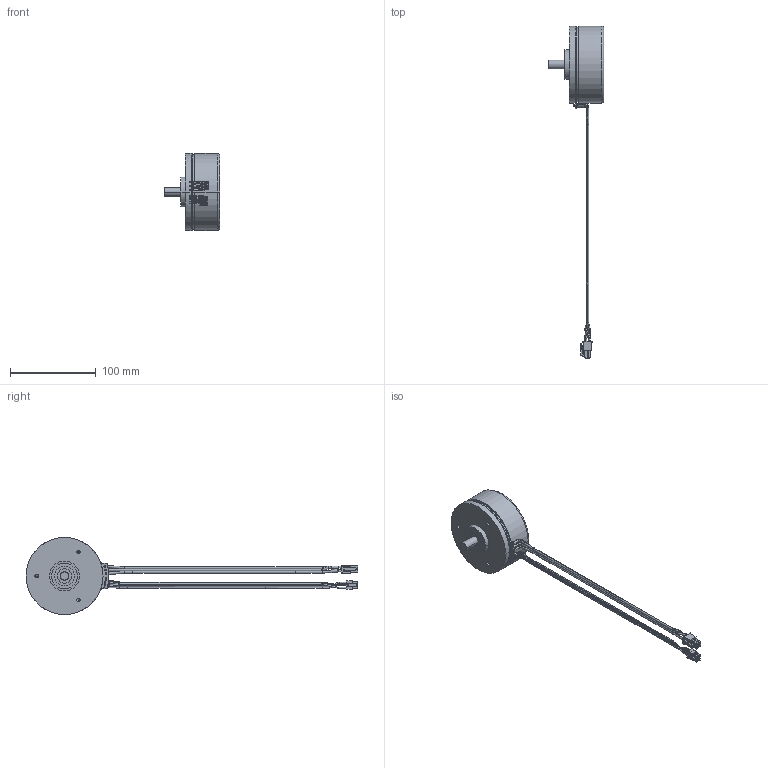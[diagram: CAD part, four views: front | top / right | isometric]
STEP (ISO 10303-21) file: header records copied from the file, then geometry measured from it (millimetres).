
FILE_DESCRIPTION((''),'2;1');
FILE_NAME('4524412','2019-04-09T',('mmagvisi'),(''),'CREO PARAMETRIC BY PTC INC, 2017300','CREO PARAMETRIC BY PTC INC, 2017300','');
FILE_SCHEMA(('CONFIG_CONTROL_DESIGN'));
Length unit declared in the file: millimetre
Products named in the file (1): 4524412
Bounding box: 65 x 388 x 90 mm (x, y, z)
Volume: 266632.9 mm3; surface area: 42297.2 mm2
Topology: 5 solids, 5 shells, 627 faces, 1589 edges, 1001 vertices
Faces by surface type: plane 367, cylinder 179, torus 71, cone 10
Entity records: 24907 total; most frequent: CARTESIAN_POINT 3682, DIRECTION 3200, ORIENTED_EDGE 3166, PRESENTATION_STYLE_ASSIGNMENT 1727, STYLED_ITEM 1588, CURVE_STYLE 1583, EDGE_CURVE 1583, VECTOR 1114
